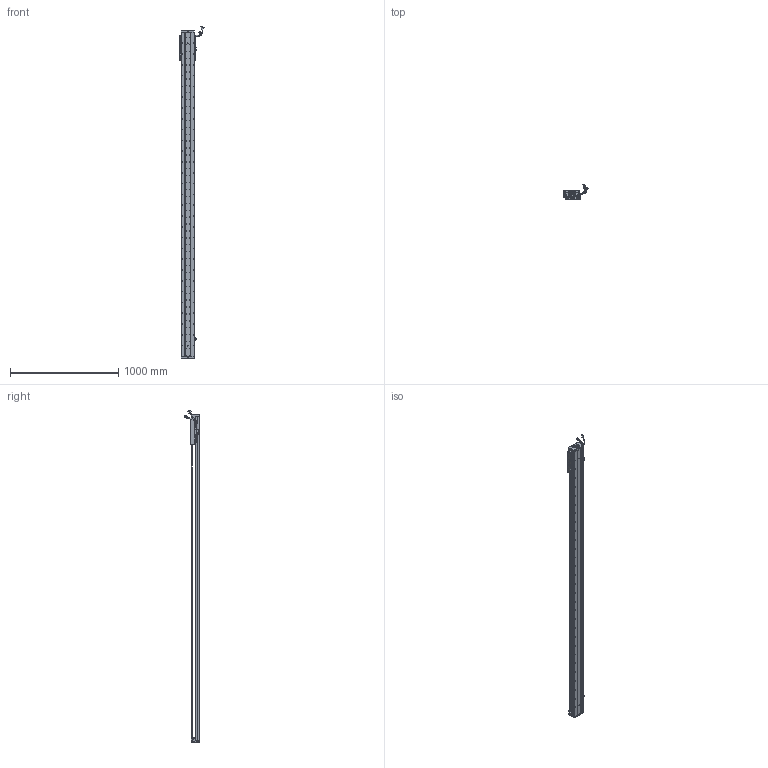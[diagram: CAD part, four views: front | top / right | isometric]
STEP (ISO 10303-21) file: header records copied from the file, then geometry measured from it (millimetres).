
FILE_DESCRIPTION (( 'STEP AP203' ), '1' );
FILE_NAME ('Z3-RY120D-1-L500-B-K.SLDASM_2700.step', '2021-05-17T05:51:06', ( '盈信电脑' ), ( '东莞市道滘镇水果街19号' ), 'SwSTEP 2.0', 'SolidWorks 2016', '' );
FILE_SCHEMA (( 'CONFIG_CONTROL_DESIGN' ));
Length unit declared in the file: millimetre
Products named in the file (37): COVER; HOLDER0; SCREW-M1.6; 140蚥薯蝶輸; SEAL-Part-1; Z3-RY120D-1-L500-B-K.SLDASM_2700; Z3-RY120-500-倰第菁釱_2700; SHIELDPLATE; Z-120詩湍傷裔啣; SCREW-M1.6-3; RY100FB-遵嫖萇覜茼え; COVER-Part-1; 120-Z-臏賑輸盄裔(21遴); 080黍杅芛假蚾釱21遴; Z-RY120D詩湍狟揤裔; Z3-RY120铝滑块（21款）; 榋妏寠巭燃_暯_M2_2; SCALE-Part-1; SEAL; 140雄赽晤鎢ん堤盄; SCREW-M1.6-2; HARNESS-Part-2; SCREW-M1.6-1; HARNESS; SCREW-M1.7-1; PSLH080_PSLF2; SCALE-Part-2; LABEL-Part-1; PBU_SHEET; HARNESS-Part-1; Z-RY120D詩湍奻揤裔; 覜茼ん672; Z3-RY120-L500詩湍100mm遵_2700; SCREW-M1.7; 672嫖萇羲壽假蚾釱; LABEL; SCALE
Assembly tree (43 placements, depth 4):
  Z3-RY120D-1-L500-B-K.SLDASM_2700
    Z3-RY120-500-倰第菁釱_2700
    覜茼ん672  x3
    672嫖萇羲壽假蚾釱  x2
    Z3-RY120铝滑块（21款）
    PSLH080_PSLF2
      SCALE
        SCALE-Part-1
        SCALE-Part-2
      HARNESS
        HARNESS-Part-1
        HARNESS-Part-2
      LABEL
        LABEL-Part-1
      COVER
        COVER-Part-1
      SEAL
        SEAL-Part-1
      榋妏寠巭燃_暯_M2_2
      SHIELDPLATE
      SCREW-M1.7
      SCREW-M1.7-1
      PBU_SHEET
      SCREW-M1.6
      SCREW-M1.6-1
      SCREW-M1.6-2
      SCREW-M1.6-3
      HOLDER0
    080黍杅芛假蚾釱21遴
    120-Z-臏賑輸盄裔(21遴)
    140雄赽晤鎢ん堤盄
    140蚥薯蝶輸  x2
    RY100FB-遵嫖萇覜茼え
    Z-120詩湍傷裔啣  x2
    Z-RY120D詩湍奻揤裔  x2
    Z-RY120D詩湍狟揤裔  x2
    Z3-RY120-L500詩湍100mm遵_2700
Bounding box: 222.83 x 140.94 x 3073.99 mm (x, y, z)
Volume: 7092453.2 mm3; surface area: 2489300.2 mm2
Topology: 38 solids, 38 shells, 3877 faces, 11121 edges, 7012 vertices
Faces by surface type: cylinder 2073, plane 1272, cone 410, torus 69, bspline 53
Entity records: 132018 total; most frequent: CARTESIAN_POINT 40983, ORIENTED_EDGE 18946, DIRECTION 17247, EDGE_CURVE 9473, AXIS2_PLACEMENT_3D 6394, VERTEX_POINT 6132, VECTOR 4459, LINE 4459
